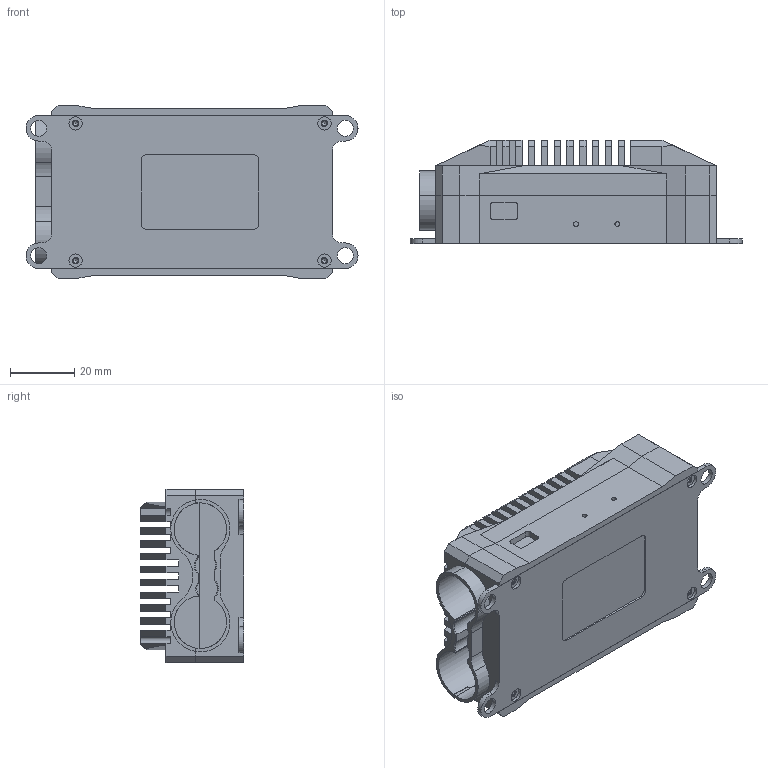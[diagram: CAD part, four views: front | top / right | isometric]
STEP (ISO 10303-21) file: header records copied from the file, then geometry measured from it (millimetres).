
FILE_DESCRIPTION(/* description */ (''),/* implementation_level */ '2;1');
FILE_NAME(/* name */ 'Opto 255 V2 ANL v1.step',/* time_stamp */ '2024-04-11T09:53:33+02:00',/* author */ (''),/* organization */ (''),/* preprocessor_version */ 'ST-DEVELOPER v20',/* originating_system */ 'Autodesk Translation Framework v12.20.1.177',/* authorisation */ '');
FILE_SCHEMA (('AUTOMOTIVE_DESIGN { 1 0 10303 214 3 1 1 }'));
Length unit declared in the file: millimetre
Products named in the file (3): Opto 255 V2 ANL; Oberteil; Unterteil
Assembly tree (2 placements, depth 2):
  Opto 255 V2 ANL
    Oberteil
    Unterteil
Bounding box: 103.7 x 32.25 x 54.1 mm (x, y, z)
Volume: 107747.6 mm3; surface area: 50801.9 mm2
Topology: 2 solids, 2 shells, 987 faces, 2628 edges, 1738 vertices
Faces by surface type: plane 872, cylinder 92, cone 19, torus 4
Full cylindrical faces by diameter (mm): 1.5 x2, 1.623 x8, 2 x8, 2.529 x2, 4.2 x4, 5 x4
Entity records: 30357 total; most frequent: CARTESIAN_POINT 5463, ORIENTED_EDGE 5232, DIRECTION 4789, EDGE_CURVE 2616, LINE 2405, VECTOR 2405, VERTEX_POINT 1738, AXIS2_PLACEMENT_3D 1192
